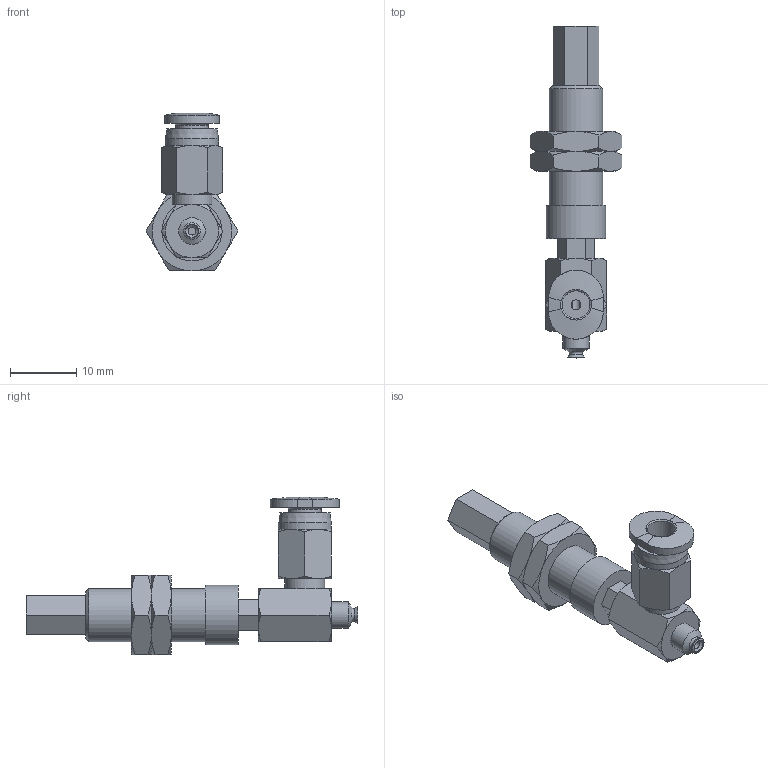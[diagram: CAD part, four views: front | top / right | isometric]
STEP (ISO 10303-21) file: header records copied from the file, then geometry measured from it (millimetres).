
FILE_DESCRIPTION(('STEP AP203'),'1');
FILE_NAME('-O.stp','2025-04-10T02:04:08',(' '),(' '),'Spatial InterOp 3D',' ',' ');
FILE_SCHEMA(('CONFIG_CONTROL_DESIGN'));
Length unit declared in the file: millimetre
Products named in the file (7): BNABPFYH-2A-3-※-O; CONNECTOR-H-2A-3; Nut-2A-3-h; NAPFTH-2A-3-FBODY; NAPFTH-2A-3-MBODY; BPFG-2A-※; PC-C_04-M3
Assembly tree (7 placements, depth 2):
  BNABPFYH-2A-3-※-O
    CONNECTOR-H-2A-3
    Nut-2A-3-h  x2
    NAPFTH-2A-3-FBODY
    NAPFTH-2A-3-MBODY
    BPFG-2A-※
    PC-C_04-M3
Bounding box: 13.86 x 50 x 23.77 mm (x, y, z)
Volume: 2628.8 mm3; surface area: 3912 mm2
Topology: 6 solids, 8 shells, 188 faces, 399 edges, 242 vertices
Faces by surface type: plane 81, cone 67, cylinder 23, torus 9, bspline 5, revolution 3
Full cylindrical faces by diameter (mm): 1.2 x2, 2 x2, 2.459 x2, 2.5 x2, 3 x4, 4 x1, 4.9 x1, 6 x1, 6.1 x1, 7.188 x2, 8 x2, 9 x1
Entity records: 4905 total; most frequent: CARTESIAN_POINT 1342, DIRECTION 657, ORIENTED_EDGE 590, EDGE_CURVE 296, AXIS2_PLACEMENT_3D 275, EDGE_LOOP 238, VERTEX_POINT 206, FACE_OUTER_BOUND 135
